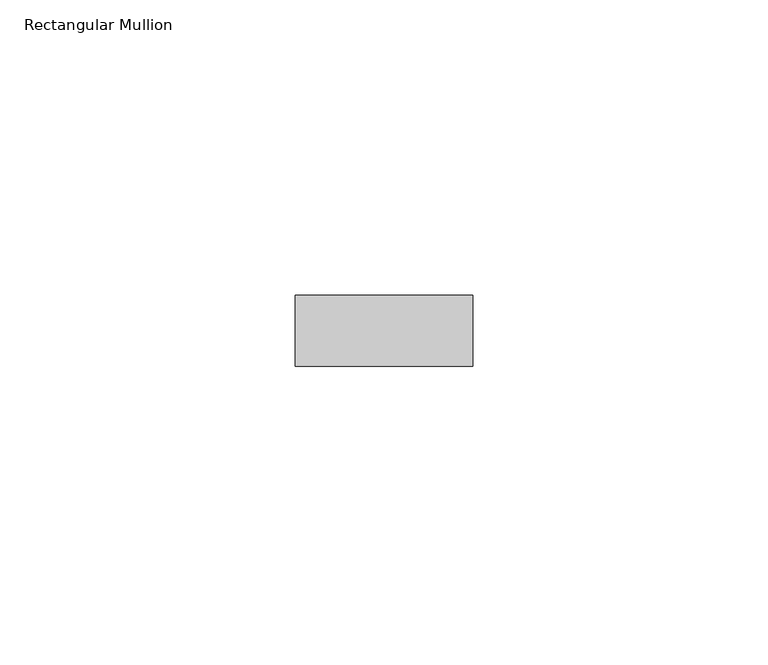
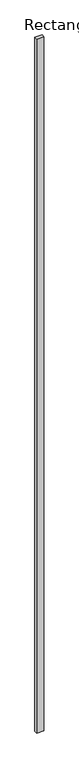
"""IFC4 building model written with IfcOpenShell, lengths in millimetres: member geometry, Rectangular Mullion : RSen_21_CWM_support profile - 30x12_gen_duco projects."""

from ifc_helpers import new_model, si_unit, frame, origin, place, context, project, spatial, polyline, outline, extrude, source, transform, mapped, element, save


def rectangular_mullion_8b624eba(model_context):
    return source(origin(), model_context, "Body", "SweptSolid", [
        extrude(outline(polyline([(15.0, 1.0), (15.0, -11.0), (-15.0, -11.0), (-15.0, 1.0), (15.0, 1.0)])), frame((0.0, 0.0, -3000.0), z_axis=(0.0, 0.0, 1.0), x_axis=(1.0, 0.0, 0.0)), (0.0, 0.0, 1.0), 3000.0),
    ])


if __name__ == "__main__":
    model = new_model("IFC4")
    model_context = context("Model", 3, world=origin())
    ifc_project = project(units=[si_unit("LENGTHUNIT", "METRE", prefix="MILLI")], contexts=[model_context])
    site = spatial("IfcSite", under=ifc_project)
    building = spatial("IfcBuilding", under=site)
    placement = place(None, origin())
    rectangular_mullion_shape = rectangular_mullion_8b624eba(model_context)
    element("IfcMember", 1, ObjectType="Rectangular Mullion : RSen_21_CWM_support profile - 30x12_gen_duco projects", at=placement, inside=building, context=model_context, shape_type="MappedRepresentation", body=[
        mapped(rectangular_mullion_shape, transform((0.0, 0.0, 0.0), x_axis=(1.0, 0.0, 0.0), y_axis=(0.0, 1.0, 0.0), z_axis=(0.0, 0.0, 1.0))),
    ])
    save(model, "model.ifc")
